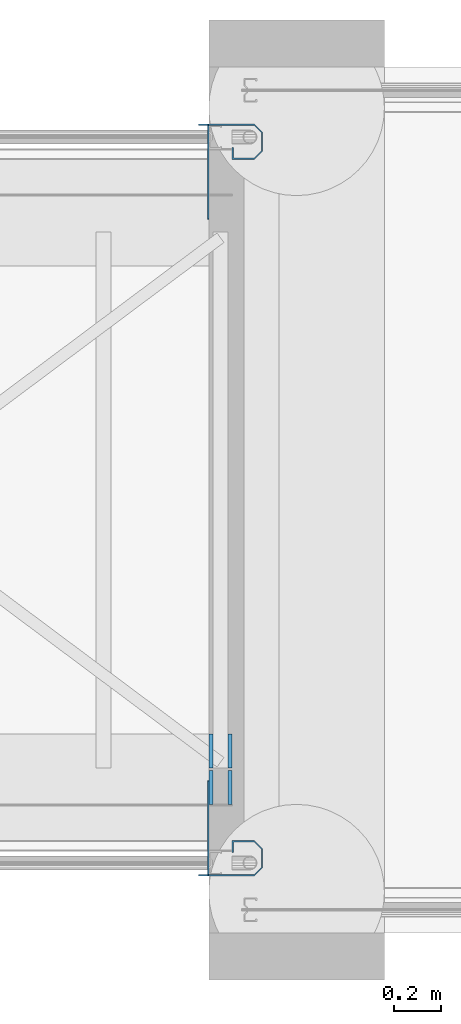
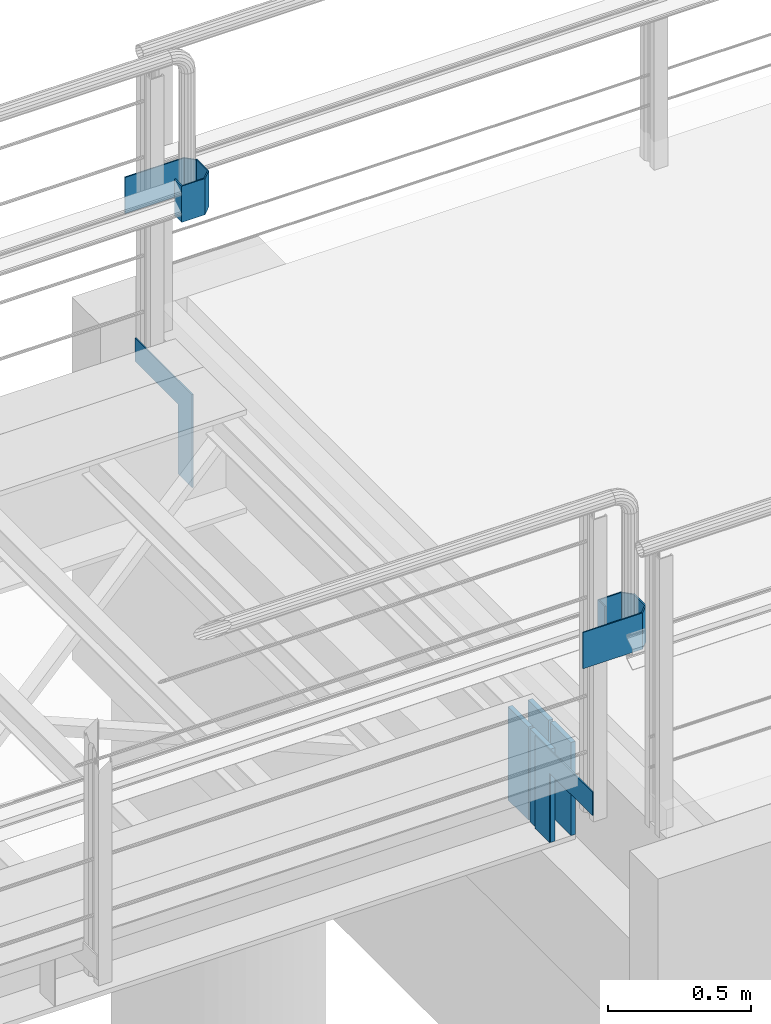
# One storey, part 29 of 31: 8 plates.
"""IFC2X3 building model written with IfcOpenShell, lengths in millimetres."""

import ifcopenshell
import ifcopenshell.guid

model = None  # the IFC model being written
_history = None  # IfcOwnerHistory: only IFC2X3 demands one
_inside = {}  # id of a spatial element -> (the spatial element, [elements in it])
_under = {}  # id of a project, library or spatial element -> (it, [spatial elements below it])
_declared = {}  # id of a project -> (the project, [libraries it declares])
_typed = {}  # id of a type object -> (the type object, [elements of that type])
_made_of = {}  # id of a material, layer set ... -> (it, [elements and type objects made of it])


def new_model(schema):
    """Start an empty IFC model of exactly this schema.

    Asked for "IFC4X3", IfcOpenShell would pick the latest addendum, in which some entities
    have other attributes; the version numbers below select the first issue.
    IFC2X3 requires an IfcOwnerHistory on every rooted entity: one is made here for all.
    """
    global model, _history
    if schema == "IFC4X3":
        model = ifcopenshell.file(schema_version=(4, 3, 0, 0))
    else:
        model = ifcopenshell.file(schema=schema)
    _inside.clear()
    _under.clear()
    _declared.clear()
    _typed.clear()
    _made_of.clear()
    _history = None
    if model.schema == "IFC2X3":
        org = make("IfcOrganization", Name="unknown")
        user = make(
            "IfcPersonAndOrganization",
            ThePerson=make("IfcPerson", FamilyName="unknown"),
            TheOrganization=org,
        )
        app = make(
            "IfcApplication",
            ApplicationDeveloper=org,
            Version="unknown",
            ApplicationFullName="unknown",
            ApplicationIdentifier="unknown",
        )
        _history = make(
            "IfcOwnerHistory",
            OwningUser=user,
            OwningApplication=app,
            ChangeAction="ADDED",
            CreationDate=0,
        )
    return model


def make(cls, **values):
    """One entity of the class cls with the attributes given. An attribute that is None is left unset."""
    return model.create_entity(
        cls, **{name: value for name, value in values.items() if value is not None}
    )


def rooted(cls, **values):
    """An entity with a GlobalId (a new one), such as an element, a storey or a relation."""
    return make(cls, GlobalId=ifcopenshell.guid.new(), OwnerHistory=_history, **values)


def si_unit(unit_type, name, prefix=None):
    """IfcSIUnit, for example si_unit("LENGTHUNIT", "METRE", prefix="MILLI")."""
    return make("IfcSIUnit", UnitType=unit_type, Prefix=prefix, Name=name)


def assignment(units):
    """IfcUnitAssignment: the units of a project."""
    return None if units is None else make("IfcUnitAssignment", Units=units)


def point(xyz):
    """IfcCartesianPoint."""
    return None if xyz is None else make("IfcCartesianPoint", Coordinates=xyz)


def direction(xyz):
    """IfcDirection."""
    return None if xyz is None else make("IfcDirection", DirectionRatios=xyz)


def frame(location, z_axis=None, x_axis=None):
    """IfcAxis2Placement3D, a coordinate frame: its origin and axes. An axis left out is left unset."""
    return make(
        "IfcAxis2Placement3D",
        Location=point(location),
        Axis=direction(z_axis),
        RefDirection=direction(x_axis),
    )


def origin_with_axes():
    """The frame at (0, 0, 0) with the z axis (0, 0, 1) and the x axis (1, 0, 0) written out."""
    return frame((0.0, 0.0, 0.0), z_axis=(0.0, 0.0, 1.0), x_axis=(1.0, 0.0, 0.0))


def place(relative_to, where):
    """IfcLocalPlacement: puts the frame where relative to a parent placement (None: the world)."""
    return make(
        "IfcLocalPlacement", PlacementRelTo=relative_to, RelativePlacement=where
    )


def context(
    kind, dimensions, precision=None, world=None, true_north=None, identifier=None
):
    """IfcGeometricRepresentationContext, for example the 3D "Model" context."""
    return make(
        "IfcGeometricRepresentationContext",
        ContextIdentifier=identifier,
        ContextType=kind,
        CoordinateSpaceDimension=dimensions,
        Precision=precision,
        WorldCoordinateSystem=world,
        TrueNorth=true_north,
    )


def subcontext(parent, identifier, kind, view, scale=None):
    """IfcGeometricRepresentationSubContext, for example "Body" below "Model"."""
    return make(
        "IfcGeometricRepresentationSubContext",
        ContextIdentifier=identifier,
        ContextType=kind,
        ParentContext=parent,
        TargetScale=scale,
        TargetView=view,
    )


def project(units=None, contexts=None):
    """IfcProject with its units and contexts."""
    return rooted(
        "IfcProject",
        Name="project",
        RepresentationContexts=contexts,
        UnitsInContext=assignment(units),
    )


def spatial(cls, under=None, at=None, **own):
    """A site, building, storey or space (cls), placed at a placement, below another one or the project."""
    s = rooted(cls, ObjectPlacement=at, **own)
    if under is not None:
        _under.setdefault(under.id(), (under, []))[1].append(s)
    return s


def faces_of(points, faces, orient=None, outer=None):
    """IfcFace entities. A face is a list of loops; a loop is a list of indices into points, from 0.

    orient and outer hold one flag for each loop. By default every Orientation is true, the
    first loop of a face is its IfcFaceOuterBound and the others are IfcFaceBound.
    """
    made = []
    for i, loops in enumerate(faces):
        bounds = []
        for j, loop in enumerate(loops):
            is_outer = j == 0 if outer is None else outer[i][j]
            bounds.append(
                make(
                    "IfcFaceOuterBound" if is_outer else "IfcFaceBound",
                    Bound=make("IfcPolyLoop", Polygon=[points[k] for k in loop]),
                    Orientation=True if orient is None else orient[i][j],
                )
            )
        made.append(make("IfcFace", Bounds=bounds))
    return made


def faceted_brep(points, faces, orient=None, outer=None, voids=None):
    """IfcFacetedBrep: a solid bounded by flat faces; with voids (closed shells), ...WithVoids."""
    shared = [point(p) for p in points]
    hull = make("IfcClosedShell", CfsFaces=faces_of(shared, faces, orient, outer))
    if voids is None:
        return make("IfcFacetedBrep", Outer=hull)
    return make(
        "IfcFacetedBrepWithVoids",
        Outer=hull,
        Voids=[
            make(cls, CfsFaces=faces_of(shared, fs, o, b)) for cls, fs, o, b in voids
        ],
    )


def shape(context_of_items, identifier, shape_type, items):
    """IfcShapeRepresentation: the items that make up one representation, for example the "Body"."""
    return make(
        "IfcShapeRepresentation",
        ContextOfItems=context_of_items,
        RepresentationIdentifier=identifier,
        RepresentationType=shape_type,
        Items=items,
    )


def material(Name=None, Category=None):
    """IfcMaterial."""
    return make("IfcMaterial", Name=Name, Category=Category)


def made_of(thing, what):
    """Note that an element or type object is made of a material, layer set ...; save() writes the relation."""
    if what is not None:
        _made_of.setdefault(what.id(), (what, []))[1].append(thing)
    return thing


def type_object(cls, material=None, **own):
    """A type object (cls), such as IfcWallType, which elements share."""
    return made_of(rooted(cls, **own), material)


def element(
    cls,
    number,
    at=None,
    inside=None,
    cuts=None,
    type_object=None,
    material=None,
    context=None,
    identifier="Body",
    shape_type=None,
    held_by="IfcProductDefinitionShape",
    body=None,
    shapes=None,
    **own,
):
    """One element of the class cls, such as IfcWall. Its Tag is "e" and its number.

    at: its placement. inside: the storey or other place that contains it. cuts: it is an
    opening in that element (IfcRelVoidsElement). A single representation is given by context,
    identifier, shape_type and body (its items); several are given by shapes. held_by: the class
    of the entity that holds the representations. save() writes the other relations.
    """
    e = rooted(cls, Tag="e%d" % number, ObjectPlacement=at, **own)
    if body is not None:
        shapes = [shape(context, identifier, shape_type, body)]
    if shapes is not None:
        e.Representation = make(held_by, Representations=shapes)
    if inside is not None:
        _inside.setdefault(inside.id(), (inside, []))[1].append(e)
    if cuts is not None:
        rooted(
            "IfcRelVoidsElement", RelatingBuildingElement=cuts, RelatedOpeningElement=e
        )
    if type_object is not None:
        _typed.setdefault(type_object.id(), (type_object, []))[1].append(e)
    return made_of(e, material)


def aggregate(whole, parts):
    """IfcRelAggregates: a whole, such as a stair, and the parts it consists of."""
    return rooted("IfcRelAggregates", RelatingObject=whole, RelatedObjects=parts)


def save(model, path):
    """Write the relations noted so far, then the file.

    IfcRelAggregates (storeys below a building ...), IfcRelContainedInSpatialStructure (elements
    in a storey), IfcRelDefinesByType, IfcRelAssociatesMaterial and IfcRelDeclares: one each for
    every whole, place, type object, material and project.
    """
    for whole, parts in _under.values():
        aggregate(whole, parts)
    for where, things in _inside.values():
        rooted(
            "IfcRelContainedInSpatialStructure",
            RelatedElements=things,
            RelatingStructure=where,
        )
    for kind, things in _typed.values():
        rooted("IfcRelDefinesByType", RelatedObjects=things, RelatingType=kind)
    for what, things in _made_of.values():
        rooted("IfcRelAssociatesMaterial", RelatedObjects=things, RelatingMaterial=what)
    for by, libraries in _declared.values():
        rooted("IfcRelDeclares", RelatingContext=by, RelatedDefinitions=libraries)
    model.write(path)


model = new_model("IFC2X3")

# Units and contexts
model_context = context("Model", 3, precision=1e-05, world=origin_with_axes())
body_context = subcontext(model_context, "Body", "Model", "MODEL_VIEW")
ifc_project = project(units=[si_unit("LENGTHUNIT", "METRE", prefix="MILLI"), si_unit("AREAUNIT", "SQUARE_METRE"), si_unit("VOLUMEUNIT", "CUBIC_METRE"), si_unit("MASSUNIT", "GRAM", prefix="KILO"), si_unit("TIMEUNIT", "SECOND"), si_unit("PLANEANGLEUNIT", "RADIAN"), si_unit("SOLIDANGLEUNIT", "STERADIAN"), si_unit("THERMODYNAMICTEMPERATUREUNIT", "DEGREE_CELSIUS"), si_unit("LUMINOUSINTENSITYUNIT", "LUMEN")], contexts=[model_context])

# Site, building, storey
site_placement = place(None, origin_with_axes())
site = spatial("IfcSite", under=ifc_project, at=site_placement, Name="Undefined", CompositionType="ELEMENT")
building_placement = place(site_placement, origin_with_axes())
building = spatial("IfcBuilding", under=site, at=building_placement, Name="Undefined", CompositionType="ELEMENT")
storey_placement = place(building_placement, origin_with_axes())
storey = spatial("IfcBuildingStorey", under=building, at=storey_placement, Name="Undefined", CompositionType="ELEMENT", Elevation=0.0)

# Plates
ifc_material = material(Name="STEEL/S355J2+N")
plate_type_1 = type_object("IfcPlateType", Name="PL155*150", PredefinedType="NOTDEFINED")
for number, where, z_axis, x_axis in (
    (1, (19505.0, 2655.0, 600.5), (-1.0, 0.0, 0.0), (0.0, -1.0, 0.0)),
    (2, (19505.0, -355.0, 600.5), (-1.0, 0.0, 0.0), (0.0, 1.0, 0.0)),
):
    element("IfcPlate", number, at=place(storey_placement, frame(where, z_axis=z_axis, x_axis=x_axis)), inside=storey, type_object=plate_type_1, material=ifc_material, Name="FØRINGSSKINNE", context=body_context, shape_type="Brep", body=[
        faceted_brep([(0.0, -77.5, 0.0), (0.0, -77.5, 5.0), (0.0, 77.5, 5.0), (0.0, 77.5, 0.0), (50.0000001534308, -77.5, 5.0), (50.0000001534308, 77.5, 5.0), (50.0, -77.5, -90.0000050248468), (50.0, 77.5, -90.0000050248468), (14.9997236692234, -77.5, -125.000281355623), (14.9997236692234, 77.5, -125.000281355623), (-64.9697186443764, -77.5, -125.000276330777), (-64.9697186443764, 77.5, -125.000276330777), (-100.0, -77.5, -89.969994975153), (-100.0, 77.5, -89.969994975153), (-100.0, -77.5, 150.000005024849), (-100.0, 77.5, 150.000005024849), (-95.0, -77.5, 150.000005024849), (-95.0, 77.5, 150.000005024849), (-95.0, -77.5, -87.8899949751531), (-95.0, 77.5, -87.8899949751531), (-62.889998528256, -77.5, -119.999996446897), (-62.889998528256, 77.5, -119.999996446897), (12.930008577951, -77.5, -119.999996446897), (12.930008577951, 77.5, -119.999996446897), (45.0, -77.5, -87.930005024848), (45.0, 77.5, -87.930005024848), (45.0, -77.5, 0.0), (45.0, 77.5, 0.0)], [[[0, 1, 2, 3]], [[1, 4, 5, 2]], [[4, 6, 7, 5]], [[6, 8, 9, 7]], [[8, 10, 11, 9]], [[10, 12, 13, 11]], [[12, 14, 15, 13]], [[14, 16, 17, 15]], [[16, 18, 19, 17]], [[18, 20, 21, 19]], [[20, 22, 23, 21]], [[22, 24, 25, 23]], [[24, 26, 27, 25]], [[26, 0, 3, 27]], [[5, 7, 9, 11, 13, 15, 17, 19, 21, 23, 25, 27, 3, 2]], [[26, 24, 22, 20, 18, 16, 14, 12, 10, 8, 6, 4, 1, 0]]]),
    ])
plate_type_2 = type_object("IfcPlateType", Name="PL5*398", PredefinedType="NOTDEFINED")
for number, where, z_axis, x_axis, name in (
    (3, (19397.5, -50.0, -419.0), (0.0, -0.00445724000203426, 0.999990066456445), (0.0, -0.999990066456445, -0.00445724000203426), "PLATE"),
    (4, (19397.5, 2350.0, -419.0), (0.0, 0.00445724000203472, 0.999990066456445), (0.0, 0.999990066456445, -0.00445724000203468), "PLATE"),
):
    element("IfcPlate", number, at=place(storey_placement, frame(where, z_axis=z_axis, x_axis=x_axis)), inside=storey, type_object=plate_type_2, material=ifc_material, Name=name, context=body_context, shape_type="Brep", body=[
        faceted_brep([(-1.77398151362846, -2.5, 397.996046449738), (398.222045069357, -2.5, 399.778942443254), (398.222045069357, 2.5, 399.778942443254), (-1.77398151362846, 2.5, 397.996046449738), (398.667769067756, -2.5, 299.779935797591), (398.667769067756, 2.5, 299.779935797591), (98.6707491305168, -2.5, 298.442763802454), (98.6707491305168, 2.5, 298.442763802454), (99.999006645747, -2.5, 0.445723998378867), (99.999006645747, 2.5, 0.445723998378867), (0.0, -2.5, -5.6843418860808e-14), (0.0, 2.5, -5.6843418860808e-14)], [[[0, 1, 2, 3]], [[1, 4, 5, 2]], [[4, 6, 7, 5]], [[6, 8, 9, 7]], [[8, 10, 11, 9]], [[10, 10, 0, 3, 11]], [[2, 5, 7, 9, 11, 3]], [[10, 8, 6, 4, 1, 0, 10]]]),
    ])
plate_type_3 = type_object("IfcPlateType", Name="PL18*144", PredefinedType="NOTDEFINED")
for number, where, z_axis, x_axis, name in (
    (5, (19409.0, -150.0, -21.0), (0.0, 1.0, 0.0), (0.0, 0.0, -1.0), "PLATE"),
    (6, (19409.0, 5.75, -21.0), (0.0, 1.0, 0.0), (0.0, 0.0, -1.0), "PLATE"),
    (7, (19491.0, -150.0, -21.0), (0.0, 1.0, 0.0), (0.0, 0.0, -1.0), "PLATE"),
    (8, (19491.0, 5.75, -21.0), (0.0, 1.0, 0.0), (0.0, 0.0, -1.0), "PLATE"),
):
    element("IfcPlate", number, at=place(storey_placement, frame(where, z_axis=z_axis, x_axis=x_axis)), inside=storey, type_object=plate_type_3, material=ifc_material, Name=name, context=body_context, shape_type="Brep", body=[
        faceted_brep([(0.0, -9.0, 0.0), (0.0, -9.0, 144.25), (0.0, 9.0, 144.25), (0.0, 9.0, 0.0), (398.0, -9.0, 144.25), (398.0, 9.0, 144.25), (398.0, -9.0, 0.0), (398.0, 9.0, 0.0)], [[[0, 1, 2, 3]], [[1, 4, 5, 2]], [[4, 6, 7, 5]], [[6, 0, 3, 7]], [[5, 7, 3, 2]], [[6, 4, 1, 0]]]),
    ])

save(model, "model.ifc")
